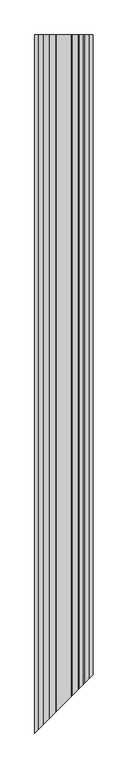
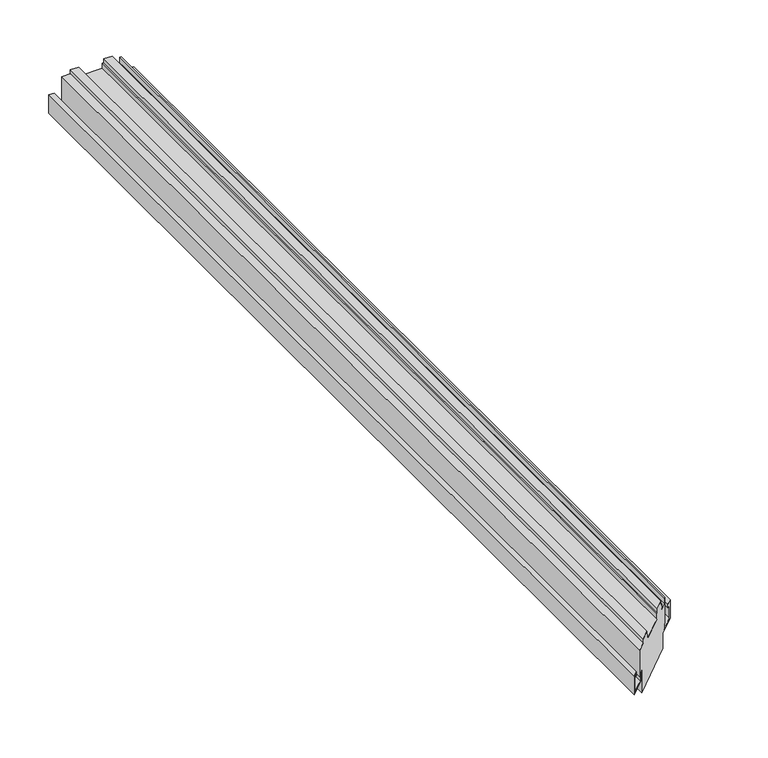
"""IFC4 building model written with IfcOpenShell, lengths in millimetres: proxy geometry, Mullion-Ceiling_Top_Spacer-Teknion-OptoLP-45º_Corner : FZFP and FYFC."""

from ifc_helpers import new_model, si_unit, origin, place, context, project, spatial, faceted_brep, source, transform, mapped, element, save


def specialty_equipment_b94d245f(model_context):
    return source(origin(), model_context, "Body", "Brep", [
        faceted_brep([(-28.9941, 1069.1749002, 27.9908004), (-31.457901, 1069.1749002, 27.9908004), (-31.457901, 1069.1749002, 17.1703999), (-50.038, 1069.1749002, 17.1703999), (-50.038, 1069.1749002, 40.4114006), (-44.030901, 1069.1749002, 40.4114006), (-44.030901, 1069.1749002, 35.9663992), (-45.6819013, 1069.1749002, 35.9663992), (-45.6819013, 1069.1749002, 38.7604004), (-48.3488999, 1069.1749002, 38.7604004), (-48.3488999, 1069.1749002, 18.8214002), (-33.1089012, 1069.1749002, 18.8214002), (-33.1089012, 1069.1749002, 25.8064), (-35.1409018, 1069.1749002, 25.8064), (-35.1409018, 1069.1749002, 57.8103988), (-24.6315641, 1069.1749002, 57.8103988), (-24.6315641, 1069.1749002, 62.608161), (-14.6103429, 1069.1749002, 62.608161), (-14.6103429, 1069.1749002, 57.8319226), (-13.0810002, 1069.1749002, 57.8319226), (-13.0810002, 1069.1749002, 51.4603993), (13.0810002, 1069.1749002, 51.4603993), (13.0810002, 1069.1749002, 57.8103988), (14.6111051, 1069.1749002, 57.8103988), (14.6111051, 1069.1749002, 62.608161), (24.6323263, 1069.1749002, 62.608161), (24.6323263, 1069.1749002, 57.8103988), (26.1620004, 1069.1749002, 57.8103988), (26.1620004, 1069.1749002, 51.4630966), (33.4899016, 1069.1749002, 51.4630966), (33.4899016, 1069.1749002, 57.8319226), (35.1409018, 1069.1749002, 57.8319226), (35.1409018, 1069.1749002, 25.8064), (33.1089012, 1069.1749002, 25.8064), (33.1089012, 1069.1749002, 18.8214002), (48.3488999, 1069.1749002, 18.8214002), (48.3488999, 1069.1749002, 38.7604004), (45.6819013, 1069.1749002, 38.7604004), (45.6819013, 1069.1749002, 35.9663992), (44.030901, 1069.1749002, 35.9663992), (44.030901, 1069.1749002, 40.4114006), (50.038, 1069.1749002, 40.4114006), (50.038, 1069.1749002, 17.1703999), (31.457901, 1069.1749002, 17.1703999), (31.457901, 1069.1749002, 27.9908004), (28.9941, 1069.1749002, 27.9908004), (28.9941, 1069.1749002, 0.0), (-28.9941, 1069.1749002, 0.0), (-28.9941, -105.9561, 0.0), (-28.9941, -105.9561, 27.9908004), (28.9941, -47.9679, 0.0), (28.9941, -47.9679, 27.9908004), (31.457901, -45.504099, 27.9908004), (31.457901, -45.504099, 17.1703999), (50.038, -26.924, 17.1703999), (50.038, -26.924, 40.4114006), (44.030901, -32.931099, 40.4114006), (44.030901, -32.931099, 35.9663992), (45.6819013, -31.2800987, 35.9663992), (45.6819013, -31.2800987, 38.7604004), (48.3488999, -28.6131001, 38.7604004), (48.3488999, -28.6131001, 18.8214002), (33.1089012, -43.8530988, 18.8214002), (33.1089012, -43.8530988, 25.8064), (35.1409018, -41.8210982, 25.8064), (35.1409018, -41.8210982, 57.8319226), (33.4899016, -43.4720984, 57.8319226), (33.4899016, -43.4720984, 51.4630966), (26.1620004, -50.7999996, 51.4630966), (26.1620004, -50.7999996, 57.8103988), (24.6323263, -52.3296737, 57.8103988), (24.6323263, -52.3296737, 62.608161), (14.6111051, -62.3508949, 62.608161), (14.6111051, -62.3508949, 57.8103988), (13.0810002, -63.8809998, 57.8103988), (13.0810002, -63.8809998, 51.4603993), (-13.0810002, -90.0430002, 51.4603993), (-13.0810002, -90.0430002, 57.8319226), (-14.6103429, -91.5723429, 57.8319226), (-14.6103429, -91.5723429, 62.608161), (-24.6315641, -101.5935641, 62.608161), (-24.6315641, -101.5935641, 57.8103988), (-35.1409018, -112.1029018, 57.8103988), (-35.1409018, -112.1029018, 25.8064), (-33.1089012, -110.0709012, 25.8064), (-33.1089012, -110.0709012, 18.8214002), (-48.3488999, -125.3108999, 18.8214002), (-48.3488999, -125.3108999, 38.7604004), (-45.6819013, -122.6439013, 38.7604004), (-45.6819013, -122.6439013, 35.9663992), (-44.030901, -120.992901, 35.9663992), (-44.030901, -120.992901, 40.4114006), (-50.038, -127.0, 40.4114006), (-50.038, -127.0, 17.1703999), (-31.457901, -108.419901, 17.1703999), (-31.457901, -108.419901, 27.9908004)], [[[0, 1, 2, 3, 4, 5, 6, 7, 8, 9, 10, 11, 12, 13, 14, 15, 16, 17, 18, 19, 20, 21, 22, 23, 24, 25, 26, 27, 28, 29, 30, 31, 32, 33, 34, 35, 36, 37, 38, 39, 40, 41, 42, 43, 44, 45, 46, 47]], [[0, 47, 48, 49]], [[47, 46, 50, 48]], [[46, 45, 51, 50]], [[45, 44, 52, 51]], [[44, 43, 53, 52]], [[43, 42, 54, 53]], [[42, 41, 55, 54]], [[41, 40, 56, 55]], [[40, 39, 57, 56]], [[39, 38, 58, 57]], [[38, 37, 59, 58]], [[37, 36, 60, 59]], [[36, 35, 61, 60]], [[35, 34, 62, 61]], [[34, 33, 63, 62]], [[33, 32, 64, 63]], [[32, 31, 65, 64]], [[31, 30, 66, 65]], [[30, 29, 67, 66]], [[29, 28, 68, 67]], [[28, 27, 69, 68]], [[27, 26, 70, 69]], [[26, 25, 71, 70]], [[25, 24, 72, 71]], [[24, 23, 73, 72]], [[23, 22, 74, 73]], [[22, 21, 75, 74]], [[21, 20, 76, 75]], [[20, 19, 77, 76]], [[19, 18, 78, 77]], [[18, 17, 79, 78]], [[17, 16, 80, 79]], [[16, 15, 81, 80]], [[15, 14, 82, 81]], [[14, 13, 83, 82]], [[13, 12, 84, 83]], [[12, 11, 85, 84]], [[11, 10, 86, 85]], [[10, 9, 87, 86]], [[9, 8, 88, 87]], [[8, 7, 89, 88]], [[7, 6, 90, 89]], [[6, 5, 91, 90]], [[5, 4, 92, 91]], [[4, 3, 93, 92]], [[3, 2, 94, 93]], [[2, 1, 95, 94]], [[1, 0, 49, 95]], [[49, 48, 50, 51, 52, 53, 54, 55, 56, 57, 58, 59, 60, 61, 62, 63, 64, 65, 66, 67, 68, 69, 70, 71, 72, 73, 74, 75, 76, 77, 78, 79, 80, 81, 82, 83, 84, 85, 86, 87, 88, 89, 90, 91, 92, 93, 94, 95]]]),
    ])


if __name__ == "__main__":
    model = new_model("IFC4")
    model_context = context("Model", 3, world=origin())
    ifc_project = project(units=[si_unit("LENGTHUNIT", "METRE", prefix="MILLI")], contexts=[model_context])
    site = spatial("IfcSite", under=ifc_project)
    building = spatial("IfcBuilding", under=site)
    placement = place(None, origin())
    specialty_equipment_shape = specialty_equipment_b94d245f(model_context)
    element("IfcBuildingElementProxy", 1, Name="Mullion-Ceiling_Top_Spacer-Teknion-OptoLP-45º_Corner : FZFP and FYFC", ObjectType="Mullion-Ceiling_Top_Spacer-Teknion-OptoLP-45º_Corner : FZFP and FYFC", at=placement, inside=building, context=model_context, shape_type="MappedRepresentation", body=[
        mapped(specialty_equipment_shape, transform((0.0, 0.0, 0.0), x_axis=(1.0, 0.0, 0.0), y_axis=(0.0, 1.0, 0.0), z_axis=(0.0, 0.0, 1.0))),
    ])
    save(model, "model.ifc")
